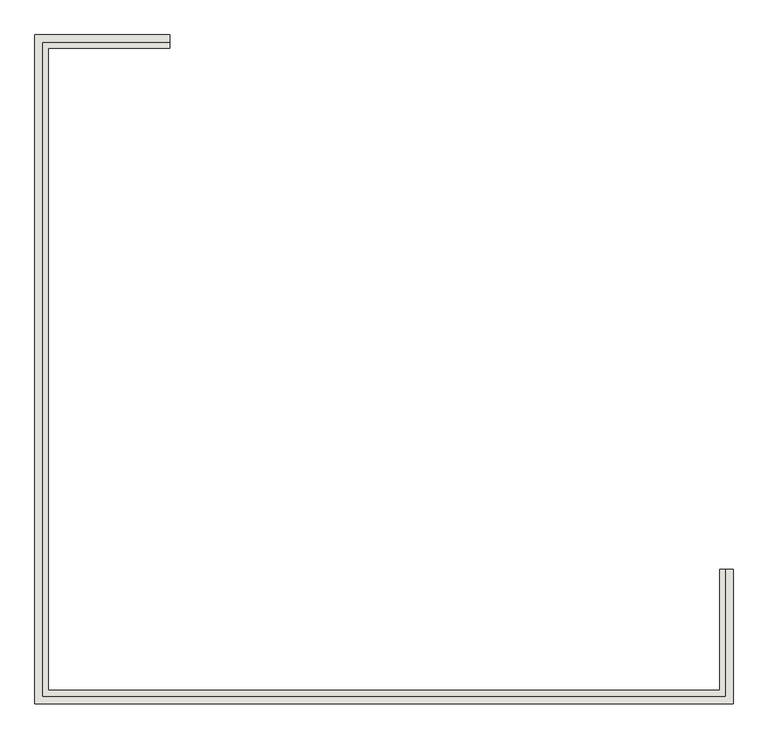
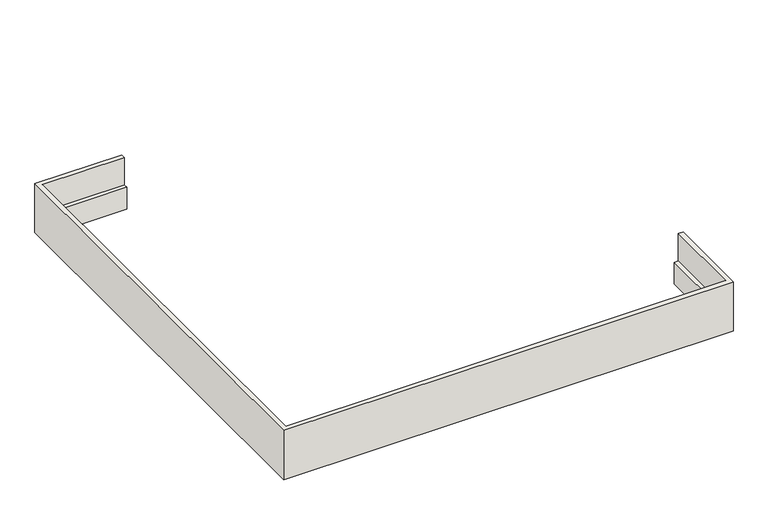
"""IFC4 building model written with IfcOpenShell, lengths in millimetres: wall geometry, 墙 1 : 墙 1."""

from ifc_helpers import new_model, si_unit, origin, place, context, project, spatial, faceted_brep, source, transform, mapped, element, save


def wall_187dfb07(model_context):
    return source(origin(), model_context, "Body", "Brep", [
        faceted_brep([(-3674.8947527, -4298.768361, 3300.0), (-3674.8947527, -4298.768361, 4200.0), (-3674.8947527, -4378.768361, 4200.0), (-3674.8947527, -4378.768361, 3700.0), (-3674.8947527, -4448.768361, 3700.0), (-3674.8947527, -4448.768361, 3300.0), (-5174.8947527, -4298.768361, 3300.0), (-5174.8947527, -4298.768361, 4200.0), (-5174.8947527, -11748.768361, 4200.0), (2595.1052473, -11748.768361, 4200.0), (2595.1052473, -10248.768361, 4200.0), (2515.1052473, -10248.768361, 4200.0), (2515.1052473, -11668.768361, 4200.0), (-5094.8947527, -11668.768361, 4200.0), (-5094.8947527, -4378.768361, 4200.0), (-5094.8947527, -4378.768361, 3700.0), (-5094.8947527, -11668.768361, 3700.0), (2515.1052473, -11668.768361, 3700.0), (2515.1052473, -10248.768361, 3700.0), (2445.1052473, -10248.768361, 3700.0), (2445.1052473, -11598.768361, 3700.0), (-5024.8947527, -11598.768361, 3700.0), (-5024.8947527, -4448.768361, 3700.0), (-5024.8947527, -4448.768361, 3300.0), (-5024.8947527, -11598.768361, 3300.0), (2445.1052473, -11598.768361, 3300.0), (2445.1052473, -10248.768361, 3300.0), (2595.1052473, -10248.768361, 3300.0), (2595.1052473, -11748.768361, 3300.0), (-5174.8947527, -11748.768361, 3300.0)], [[[0, 1, 2, 3, 4, 5]], [[1, 0, 6, 7]], [[2, 1, 7, 8, 9, 10, 11, 12, 13, 14]], [[3, 2, 14, 15]], [[4, 3, 15, 16, 17, 18, 19, 20, 21, 22]], [[5, 4, 22, 23]], [[0, 5, 23, 24, 25, 26, 27, 28, 29, 6]], [[7, 6, 29, 8]], [[15, 14, 13, 16]], [[23, 22, 21, 24]], [[8, 29, 28, 9]], [[16, 13, 12, 17]], [[24, 21, 20, 25]], [[27, 26, 19, 18, 11, 10]], [[9, 28, 27, 10]], [[17, 12, 11, 18]], [[25, 20, 19, 26]]]),
    ])


if __name__ == "__main__":
    model = new_model("IFC4")
    model_context = context("Model", 3, world=origin())
    ifc_project = project(units=[si_unit("LENGTHUNIT", "METRE", prefix="MILLI")], contexts=[model_context])
    site = spatial("IfcSite", under=ifc_project)
    building = spatial("IfcBuilding", under=site)
    placement = place(None, origin())
    wall_shape = wall_187dfb07(model_context)
    element("IfcWall", 1, ObjectType="墙 1 : 墙 1", at=placement, inside=building, context=model_context, shape_type="MappedRepresentation", body=[
        mapped(wall_shape, transform((0.0, 0.0, 0.0), x_axis=(1.0, 0.0, 0.0), y_axis=(0.0, 1.0, 0.0), z_axis=(0.0, 0.0, 1.0))),
    ])
    save(model, "model.ifc")
